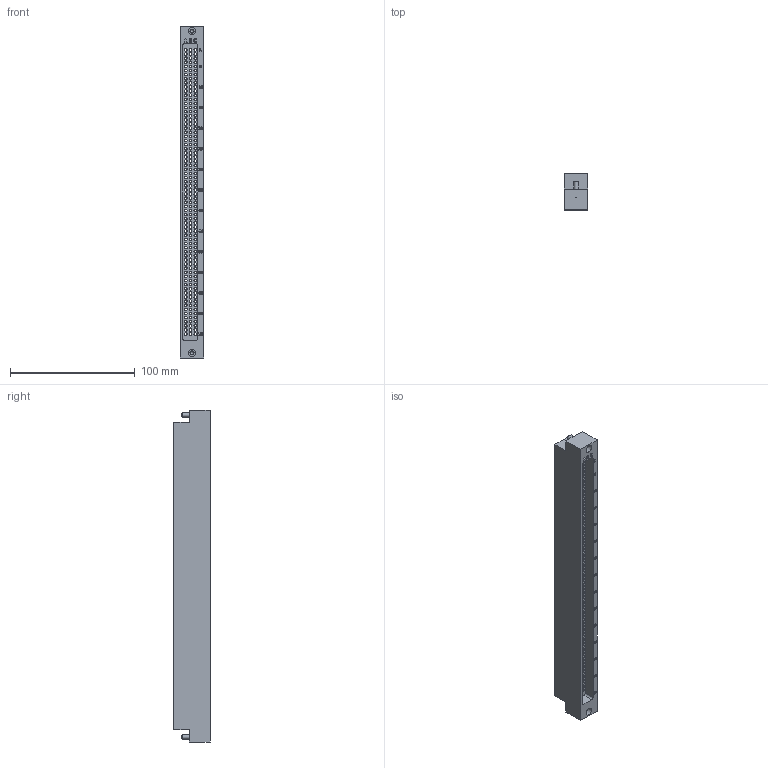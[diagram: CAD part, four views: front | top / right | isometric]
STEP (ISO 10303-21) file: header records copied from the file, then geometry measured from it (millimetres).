
FILE_DESCRIPTION((''),'2;1');
FILE_NAME('C:\old_Drawings\shrinkwrapped website .stp files\754025-STP.stp','2012-05-22T13:23:31',('GaryRobinson'),(''),'Autodesk Inventor 2011','Autodesk Inventor 2011','');
FILE_SCHEMA(('AUTOMOTIVE_DESIGN { 1 0 10303 214 1 1 1 1 }'));
Length unit declared in the file: inch
Products named in the file (1): 754025-STP
Bounding box: 18.8 x 29.21 x 266.19 mm (x, y, z)
Surface area: 42489.8 mm2 (no closed solid volume)
Topology: 0 solids, 18 shells, 257 faces, 1751 edges, 1511 vertices
Faces by surface type: cylinder 222, plane 33, cone 2
Full cylindrical faces by diameter (mm): 2.083 x140, 2.921 x70, 3.505 x2, 6.096 x2
Entity records: 17502 total; most frequent: CARTESIAN_POINT 4692, DIRECTION 2259, ORIENTED_EDGE 1817, EDGE_CURVE 1533, VERTEX_POINT 1509, EDGE_LOOP 957, AXIS2_PLACEMENT_3D 932, FACE_BOUND 700
